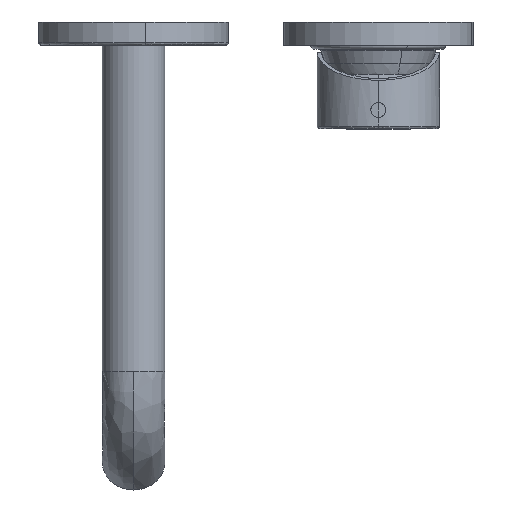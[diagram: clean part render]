
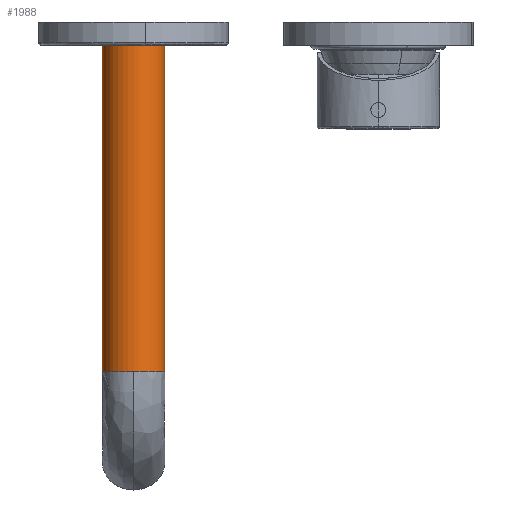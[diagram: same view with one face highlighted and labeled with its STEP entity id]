
A CAD part, top view. The second image highlights one B-rep face of the part: STEP entity #1988.
In plain terms, the highlighted cylindrical face has radius 11.5 mm (diameter 23 mm), a partial arc.
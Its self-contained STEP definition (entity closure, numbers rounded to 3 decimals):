
#4 = AXIS2_PLACEMENT_3D ( 'NONE', #4401, #1503, #4428 ) ;
#27 = DIRECTION ( 'NONE',  ( 0., -1., 0. ) ) ;
#291 = LINE ( 'NONE', #1087, #5434 ) ;
#388 = CIRCLE ( 'NONE', #5036, 11.5 ) ;
#515 = CARTESIAN_POINT ( 'NONE',  ( -18.504, -186.38, 0.825 ) ) ;
#607 = DIRECTION ( 'NONE',  ( 0., 1., 0. ) ) ;
#652 = VERTEX_POINT ( 'NONE', #1728 ) ;
#815 = CARTESIAN_POINT ( 'NONE',  ( -30.004, -66.379, 0.825 ) ) ;
#1049 = LINE ( 'NONE', #2611, #4967 ) ;
#1082 = EDGE_CURVE ( 'NONE', #5110, #2659, #291, .T. ) ;
#1087 = CARTESIAN_POINT ( 'NONE',  ( -30.004, -26.38, 0.825 ) ) ;
#1166 = DIRECTION ( 'NONE',  ( 1., 0., 0. ) ) ;
#1173 = EDGE_CURVE ( 'NONE', #652, #1456, #388, .T. ) ;
#1321 = ORIENTED_EDGE ( 'NONE', *, *, #3978, .T. ) ;
#1456 = VERTEX_POINT ( 'NONE', #2986 ) ;
#1503 = DIRECTION ( 'NONE',  ( 0., -1., 0. ) ) ;
#1626 = CIRCLE ( 'NONE', #2585, 11.5 ) ;
#1658 = ORIENTED_EDGE ( 'NONE', *, *, #2558, .F. ) ;
#1728 = CARTESIAN_POINT ( 'NONE',  ( -18.504, -186.38, 12.325 ) ) ;
#1819 = CARTESIAN_POINT ( 'NONE',  ( -30.004, -186.38, 0.825 ) ) ;
#1947 = CARTESIAN_POINT ( 'NONE',  ( -18.504, -186.38, 0.825 ) ) ;
#1988 = ADVANCED_FACE ( 'NONE', ( #3800 ), #5057, .T. ) ;
#2255 = VERTEX_POINT ( 'NONE', #3073 ) ;
#2558 = EDGE_CURVE ( 'NONE', #2255, #1456, #1049, .T. ) ;
#2585 = AXIS2_PLACEMENT_3D ( 'NONE', #515, #607, #3941 ) ;
#2611 = CARTESIAN_POINT ( 'NONE',  ( -7.004, -26.38, 0.825 ) ) ;
#2622 = EDGE_CURVE ( 'NONE', #2659, #652, #1626, .T. ) ;
#2659 = VERTEX_POINT ( 'NONE', #1819 ) ;
#2986 = CARTESIAN_POINT ( 'NONE',  ( -7.004, -186.38, 0.825 ) ) ;
#3073 = CARTESIAN_POINT ( 'NONE',  ( -7.004, -66.379, 0.825 ) ) ;
#3634 = DIRECTION ( 'NONE',  ( 0., 0., -1. ) ) ;
#3800 = FACE_OUTER_BOUND ( 'NONE', #4724, .T. ) ;
#3858 = CARTESIAN_POINT ( 'NONE',  ( -18.504, -26.38, 0.825 ) ) ;
#3878 = ORIENTED_EDGE ( 'NONE', *, *, #2622, .T. ) ;
#3941 = DIRECTION ( 'NONE',  ( 0., 0., -1. ) ) ;
#3978 = EDGE_CURVE ( 'NONE', #2255, #5110, #4324, .T. ) ;
#4245 = ORIENTED_EDGE ( 'NONE', *, *, #1082, .T. ) ;
#4324 = CIRCLE ( 'NONE', #4, 11.5 ) ;
#4401 = CARTESIAN_POINT ( 'NONE',  ( -18.504, -66.379, 0.825 ) ) ;
#4428 = DIRECTION ( 'NONE',  ( 0., 0., -1. ) ) ;
#4448 = DIRECTION ( 'NONE',  ( 0., -1., 0. ) ) ;
#4724 = EDGE_LOOP ( 'NONE', ( #1321, #4245, #3878, #4819, #1658 ) ) ;
#4819 = ORIENTED_EDGE ( 'NONE', *, *, #1173, .T. ) ;
#4967 = VECTOR ( 'NONE', #5145, 1000. ) ;
#5036 = AXIS2_PLACEMENT_3D ( 'NONE', #1947, #5339, #3634 ) ;
#5042 = AXIS2_PLACEMENT_3D ( 'NONE', #3858, #27, #1166 ) ;
#5057 = CYLINDRICAL_SURFACE ( 'NONE', #5042, 11.5 ) ;
#5110 = VERTEX_POINT ( 'NONE', #815 ) ;
#5145 = DIRECTION ( 'NONE',  ( 0., -1., 0. ) ) ;
#5339 = DIRECTION ( 'NONE',  ( 0., 1., 0. ) ) ;
#5434 = VECTOR ( 'NONE', #4448, 1000. ) ;
